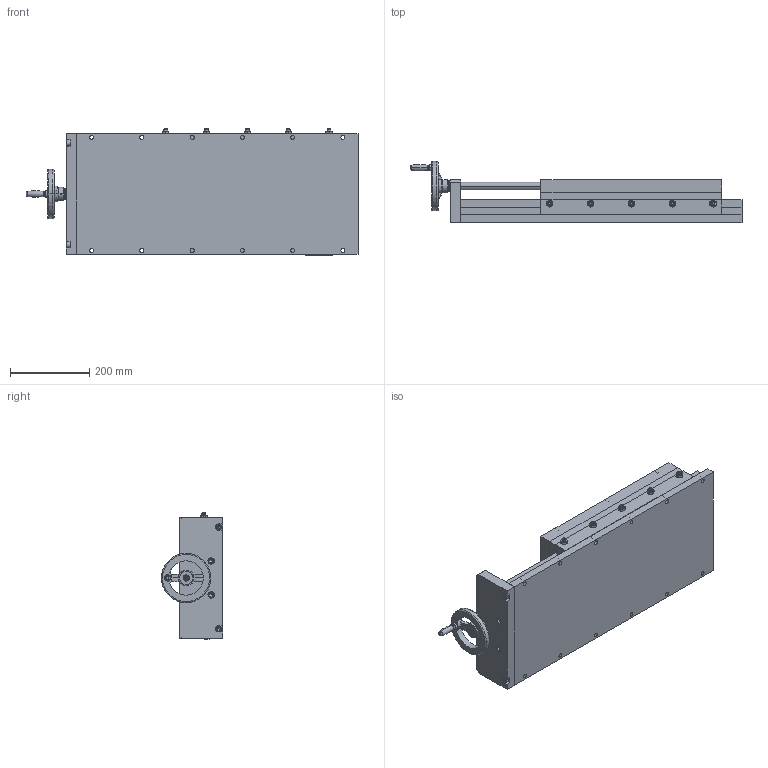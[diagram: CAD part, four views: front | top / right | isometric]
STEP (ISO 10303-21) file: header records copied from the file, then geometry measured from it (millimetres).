
FILE_DESCRIPTION (( 'STEP AP214' ), '1' );
FILE_NAME ('SW12-SL18-BL28-LS.STEP', '2011-11-04T18:35:47', ( '' ), ( '' ), 'SwSTEP 2.0', 'SolidWorks 2011', '' );
FILE_SCHEMA (( 'AUTOMOTIVE_DESIGN' ));
Length unit declared in the file: inch
Products named in the file (26): socket head cap screw_ai_HX-SHCS 0.25-20x0.5x0.5-N; EW-20; AHTNK125; socket head cap screw_ai_HX-SHCS 0.375-16x1.25x1.25-N; 6681K11; Gen2 End Plate_12 EPLATE; socket head cap screw_ai_HX-SHCS 0.375-16x0.75x0.75-N; EW-40; Lead Screw_3_4-6 x 11.38 Lg; spring pin slotted_ai_SPS 0.1875x1.25; Lead Nut_3_4-6; socket head cap screw_ai_HX-SHCS 0.375-16x1.5x1.5-N; Gen2 Nut Plate_12x18 NPLATE; Gen2 SLIDE_SW12-SL18-BL28; Gen2 SADDLE_12x18 SADDLE; machine screw nut hex_ai_MSHXNUT 0.375-24-D-N; socket set screw cup point_ai_SSCUPSKT 0.375-24x1.25-HX-N; Tag; Gen2 Bar_12x18 BAR; Gen2 Adj Gib_12x18 ADJ GIB; Gen2 Gib_12x18 GIB; Gen2 Top plate_12x18 TPLATE; Gen2 BASE_12x28 BASE; Gen2 Hardplate_12x28 HPLATE; Gen2 Baseplate_12x28 BASE; SW12-SL18-BL28-LS
Assembly tree (43 placements, depth 4):
  SW12-SL18-BL28-LS
    6681K11  x2
    socket head cap screw_ai_HX-SHCS 0.375-16x1.5x1.5-N  x6
    Gen2 End Plate_12 EPLATE
    EW-40
    EW-20
    AHTNK125
    socket head cap screw_ai_HX-SHCS 0.375-16x0.75x0.75-N
    spring pin slotted_ai_SPS 0.1875x1.25  x2
    socket head cap screw_ai_HX-SHCS 0.25-20x0.5x0.5-N
    Gen2 SLIDE_SW12-SL18-BL28
      Gen2 SADDLE_12x18 SADDLE
        socket set screw cup point_ai_SSCUPSKT 0.375-24x1.25-HX-N  x5
        Tag
        machine screw nut hex_ai_MSHXNUT 0.375-24-D-N  x5
        Gen2 Bar_12x18 BAR
        Gen2 Adj Gib_12x18 ADJ GIB
        Gen2 Gib_12x18 GIB
        Gen2 Top plate_12x18 TPLATE
      Gen2 BASE_12x28 BASE
        Gen2 Hardplate_12x28 HPLATE
        Gen2 Baseplate_12x28 BASE
    socket head cap screw_ai_HX-SHCS 0.375-16x1.25x1.25-N  x4
    Lead Screw_3_4-6 x 11.38 Lg
    Gen2 Nut Plate_12x18 NPLATE
    Lead Nut_3_4-6
Bounding box: 838.84 x 154.57 x 318.69 mm (x, y, z)
Volume: 19444023.5 mm3; surface area: 2274888.4 mm2
Topology: 69 solids, 69 shells, 1130 faces, 2718 edges, 1569 vertices
Faces by surface type: plane 429, cylinder 305, cone 220, bspline 116, torus 58, sphere 2
Entity records: 23921 total; most frequent: CARTESIAN_POINT 6753, DIRECTION 3319, ORIENTED_EDGE 2964, EDGE_CURVE 1482, AXIS2_PLACEMENT_3D 1325, VERTEX_POINT 948, EDGE_LOOP 820, CIRCLE 681
